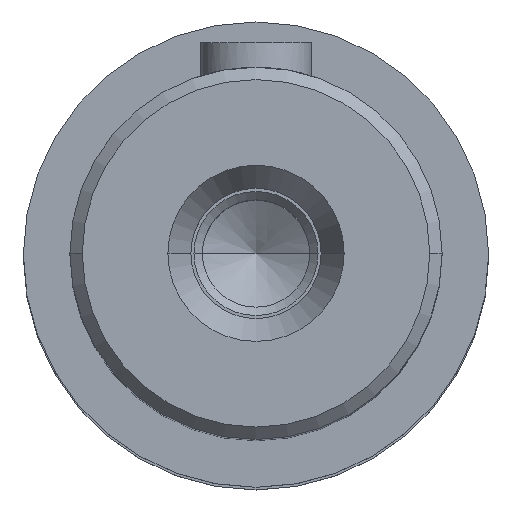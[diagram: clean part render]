
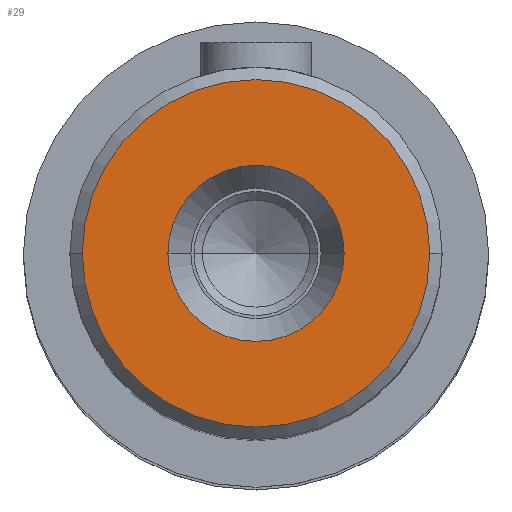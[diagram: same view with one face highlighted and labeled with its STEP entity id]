
A CAD part, top view. The second image highlights one B-rep face of the part: STEP entity #29.
In plain terms, the highlighted planar face has unit normal (0, 0, 1) as drawn and (1, 0, 0) by its records, which use the part's own axes.
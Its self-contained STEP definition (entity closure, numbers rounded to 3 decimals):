
#29=ADVANCED_FACE('',(#70,#57),#498,.T.);
#57=FACE_BOUND('',#110,.T.);
#70=FACE_OUTER_BOUND('',#109,.T.);
#109=EDGE_LOOP('',(#180,#181));
#110=EDGE_LOOP('',(#182,#183));
#180=ORIENTED_EDGE('',*,*,#288,.F.);
#181=ORIENTED_EDGE('',*,*,#291,.F.);
#182=ORIENTED_EDGE('',*,*,#337,.F.);
#183=ORIENTED_EDGE('',*,*,#310,.F.);
#288=EDGE_CURVE('',#456,#459,#347,.T.);
#291=EDGE_CURVE('',#459,#456,#349,.T.);
#310=EDGE_CURVE('',#458,#484,#358,.T.);
#337=EDGE_CURVE('',#484,#458,#373,.T.);
#347=TRIMMED_CURVE($,#383,(#1081),(#1082),.T.,.CARTESIAN.);
#349=TRIMMED_CURVE($,#385,(#1089),(#1090),.T.,.CARTESIAN.);
#358=TRIMMED_CURVE($,#394,(#1136),(#1137),.T.,.CARTESIAN.);
#373=TRIMMED_CURVE($,#409,(#1205),(#1206),.T.,.CARTESIAN.);
#383=CIRCLE('',#731,28.);
#385=CIRCLE('',#733,28.);
#394=CIRCLE('',#742,14.2);
#409=CIRCLE('',#757,14.2);
#456=VERTEX_POINT('',#988);
#458=VERTEX_POINT('',#990);
#459=VERTEX_POINT('',#991);
#484=VERTEX_POINT('',#1016);
#498=PLANE('',#706);
#706=AXIS2_PLACEMENT_3D('',#888,#774,$);
#731=AXIS2_PLACEMENT_3D($,#1080,#808,#809);
#733=AXIS2_PLACEMENT_3D($,#1088,#812,#813);
#742=AXIS2_PLACEMENT_3D($,#1135,#830,#831);
#757=AXIS2_PLACEMENT_3D($,#1204,#860,#861);
#774=DIRECTION('',(1.,0.,0.));
#808=DIRECTION('',(-1.,0.,0.));
#809=DIRECTION('',(0.,0.,1.));
#812=DIRECTION('',(-1.,0.,0.));
#813=DIRECTION('',(0.,0.,-1.));
#830=DIRECTION('',(1.,0.,0.));
#831=DIRECTION('',(0.,0.,-1.));
#860=DIRECTION('',(1.,0.,0.));
#861=DIRECTION('',(0.,0.,1.));
#888=CARTESIAN_POINT('',(245.,-33.66,-33.66));
#988=CARTESIAN_POINT('',(245.,0.,28.));
#990=CARTESIAN_POINT('',(245.,0.,-14.2));
#991=CARTESIAN_POINT('',(245.,0.,-28.));
#1016=CARTESIAN_POINT('',(245.,0.,14.2));
#1080=CARTESIAN_POINT('',(245.,0.,0.));
#1081=CARTESIAN_POINT('',(245.,0.,28.));
#1082=CARTESIAN_POINT('',(245.,0.,-28.));
#1088=CARTESIAN_POINT('',(245.,0.,0.));
#1089=CARTESIAN_POINT('',(245.,0.,-28.));
#1090=CARTESIAN_POINT('',(245.,0.,28.));
#1135=CARTESIAN_POINT('',(245.,0.,0.));
#1136=CARTESIAN_POINT('',(245.,0.,-14.2));
#1137=CARTESIAN_POINT('',(245.,0.,14.2));
#1204=CARTESIAN_POINT('',(245.,0.,0.));
#1205=CARTESIAN_POINT('',(245.,0.,14.2));
#1206=CARTESIAN_POINT('',(245.,0.,-14.2));
